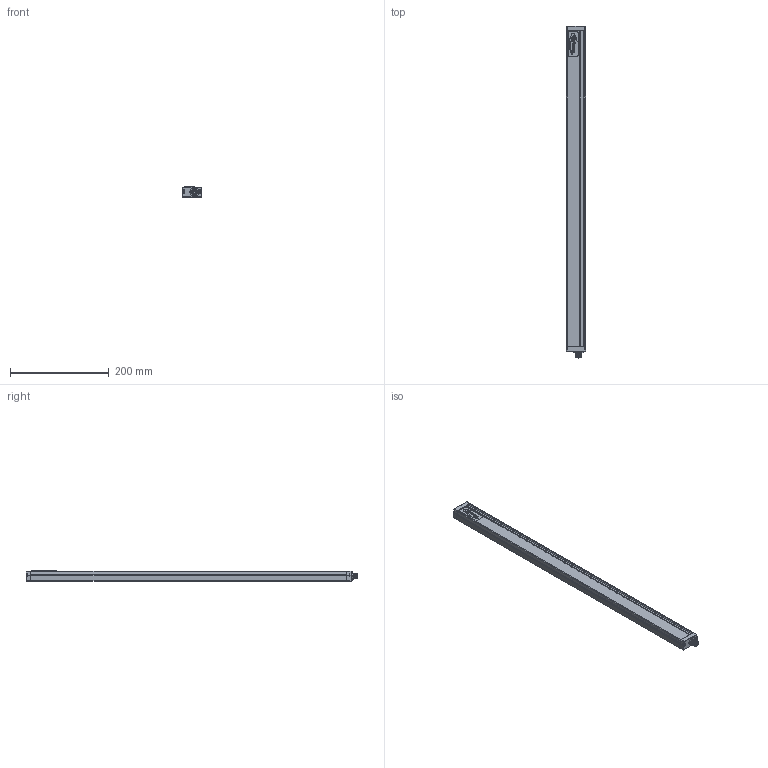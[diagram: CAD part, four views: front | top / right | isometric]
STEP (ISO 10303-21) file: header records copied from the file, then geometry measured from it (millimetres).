
FILE_DESCRIPTION(/* description */ (''),/* implementation_level */ '2;1');
FILE_NAME(/* name */ 'C:\Users\andre\SynologyDrive\Optoscan\Libreria Componenti\00 - Barriere\Barriera sorgente\Argo_640_RX.stp',/* time_stamp */ '2021-04-22T11:54:56+02:00',/* author */ ('andre'),/* organization */ (''),/* preprocessor_version */ 'ST-DEVELOPER v18',/* originating_system */ 'Autodesk Inventor 2020',/* authorisation */ '');
FILE_SCHEMA (('AUTOMOTIVE_DESIGN { 1 0 10303 214 3 1 1 }'));
Length unit declared in the file: millimetre
Products named in the file (1): Argo_640_RX
Bounding box: 40.5 x 673.3 x 20.75 mm (x, y, z)
Volume: 136010.5 mm3; surface area: 176167.5 mm2
Topology: 1 solids, 1 shells, 692 faces, 1898 edges, 1217 vertices
Faces by surface type: plane 319, cylinder 195, bspline 94, torus 70, cone 8, sphere 6
Full cylindrical faces by diameter (mm): 1 x4, 2.459 x4, 2.5 x4, 3 x4, 3.5 x4, 5.5 x4, 8 x1, 10.5 x2, 11.75 x9, 15.7 x1, 17.5 x1
Entity records: 28165 total; most frequent: CARTESIAN_POINT 10195, ORIENTED_EDGE 3778, DIRECTION 3387, EDGE_CURVE 1889, VERTEX_POINT 1217, AXIS2_PLACEMENT_3D 1183, LINE 1021, VECTOR 1021
